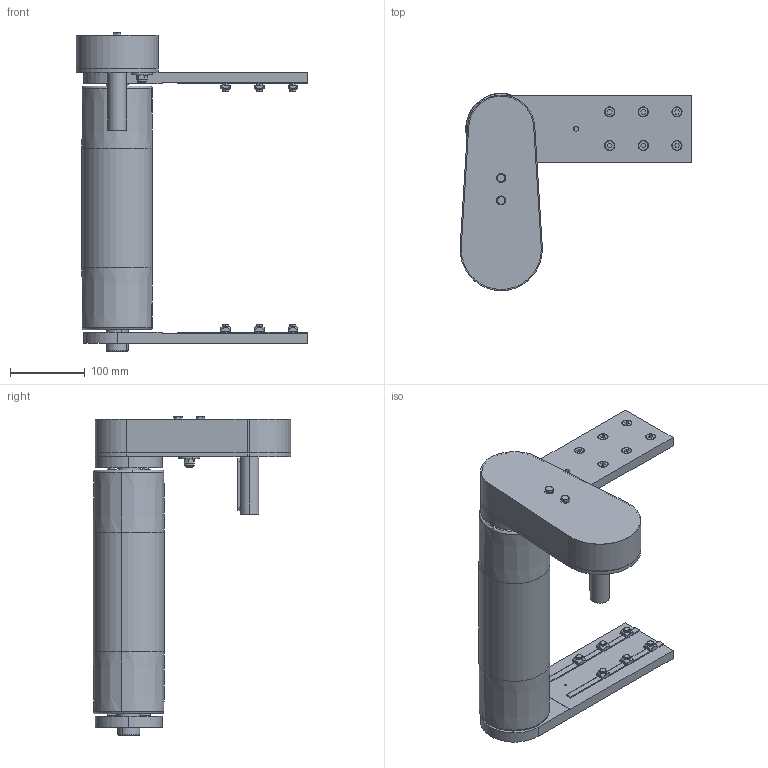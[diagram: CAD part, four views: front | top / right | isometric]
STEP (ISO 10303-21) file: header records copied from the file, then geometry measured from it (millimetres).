
FILE_DESCRIPTION (( 'STEP AP203' ), '1' );
FILE_NAME ('084.095.KTB.49.300.step', '2013-02-28T12:02:53', ( '' ), ( '' ), 'SwSTEP 2.0', 'SolidWorks 2011', '' );
FILE_SCHEMA (( 'CONFIG_CONTROL_DESIGN' ));
Length unit declared in the file: millimetre
Products named in the file (28): 084.095.KTB.49.300; Hex Screw GradeC_ALUSIC_ISO 4018 - M8 x 20-NS; Hex Screw GradeC_ALUSIC_ISO 4018 - M6 x 50-NS; ANELLI ELASTICI PER ESTERNI UNI 7435-75_Circlip DIN 471 - 30 x 1.5; CHIAVETTE_A 8x7x25 UNI 6604-69; CHIAVETTE_A 8x7x70 UNI 6604-69; Specchiatura084.302.000 DADI ALUSIC 13x13_084.302.004; 084.301.000 VITI ALUSIC_084.301.003; 084.302.000 DADI ALUSIC 13x13_084.302.004; 084.821.003; 084.810.006; Circlip for Shafts normal_din_Circlip DIN 471 - 8 x 0.8; Plain Washer XLarge Grade C_ALUSIC_Washer ISO 7094 - 8; Torque nut 01_ALUSIC_ISO 7040-M8-S; CUSCINETTI A SFERE_608-2RS; 084.810.008; 084.816.102_084.816.107<A macchina>; 084.813.005; 084.809.002; 084.821.002; 084.809.003; 084.813.002; 084.812.003; 084.802.019_084.802.019; 084.802.034_084.802.034; 084.808.002_084.808.002; 084.810.003; 084.808.003_084.808.003
Assembly tree (59 placements, depth 3):
  084.095.KTB.49.300
    084.813.005
    084.809.003
    084.810.003  x2
    Hex Screw GradeC_ALUSIC_ISO 4018 - M6 x 50-NS  x2
    Specchiatura084.302.000 DADI ALUSIC 13x13_084.302.004  x5
    084.301.000 VITI ALUSIC_084.301.003  x12
    084.821.002  x2
    Hex Screw GradeC_ALUSIC_ISO 4018 - M8 x 20-NS  x4
    084.821.003
    084.302.000 DADI ALUSIC 13x13_084.302.004  x7
    084.802.019_084.802.019
    084.816.102_084.816.107<A macchina>
    ANELLI ELASTICI PER ESTERNI UNI 7435-75_Circlip DIN 471 - 30 x 1.5  x2
    CHIAVETTE_A 8x7x70 UNI 6604-69
    084.810.006
      CUSCINETTI A SFERE_608-2RS  x3
      084.810.008
      Circlip for Shafts normal_din_Circlip DIN 471 - 8 x 0.8
      Torque nut 01_ALUSIC_ISO 7040-M8-S
      Plain Washer XLarge Grade C_ALUSIC_Washer ISO 7094 - 8
    084.808.003_084.808.003
    084.812.003
    CHIAVETTE_A 8x7x25 UNI 6604-69  x3
    084.813.002
    084.809.002
    084.802.034_084.802.034
    084.808.002_084.808.002
Bounding box: 310 x 263.99 x 427.88 mm (x, y, z)
Volume: 1880932.1 mm3; surface area: 799940.4 mm2
Topology: 63 solids, 64 shells, 2827 faces, 7309 edges, 4678 vertices
Faces by surface type: cylinder 1022, plane 857, cone 817, torus 122, sphere 9
Entity records: 54510 total; most frequent: CARTESIAN_POINT 9764, DIRECTION 9204, ORIENTED_EDGE 8304, EDGE_CURVE 4152, AXIS2_PLACEMENT_3D 3521, VERTEX_POINT 2673, LINE 2162, VECTOR 2162
